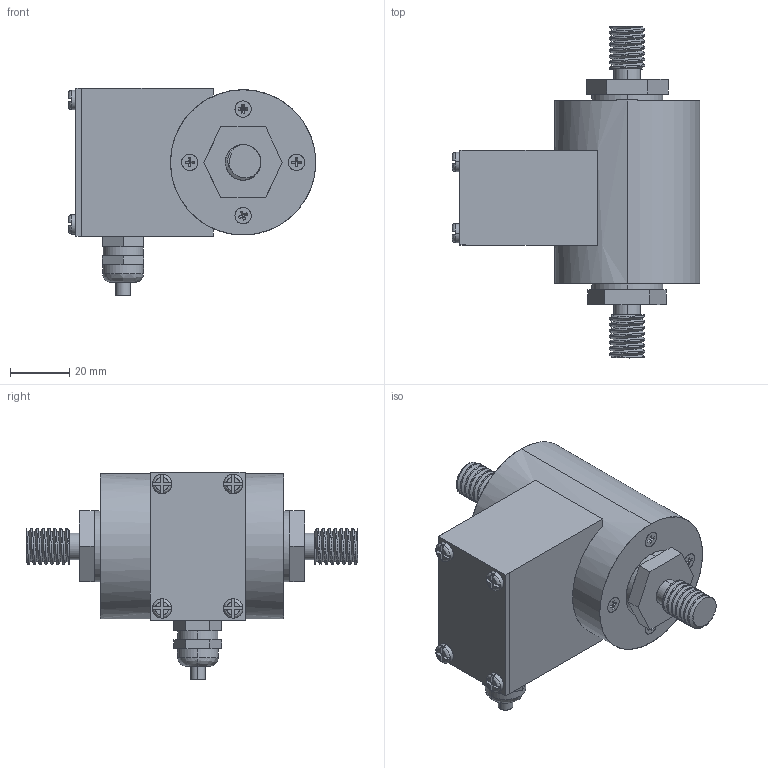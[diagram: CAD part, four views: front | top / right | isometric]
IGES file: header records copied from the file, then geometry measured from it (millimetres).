
Start section: SolidWorks IGES file using analytic representation for surfaces
Global section: file name: O:\16-Entwicklung\Projekte\03_Kraftsensoren\0222_KT1101\01_Mechanik & Gehäuse\01_Solid Works\01_Outline 3D files\KT1101_K_5KN.IGS; native system: SolidWorks 2012; preprocessor: SolidWorks 2012; author: AndreB; date: 140424.091729; units: metre
Bounding box: 83.5 x 112 x 70 mm (x, y, z)
Surface area: 24647.1 mm2 (no closed solid volume)
Topology: 0 solids, 0 shells, 258 faces, 4171 edges, 4171 vertices
Faces by surface type: bspline 197, revolution 61
